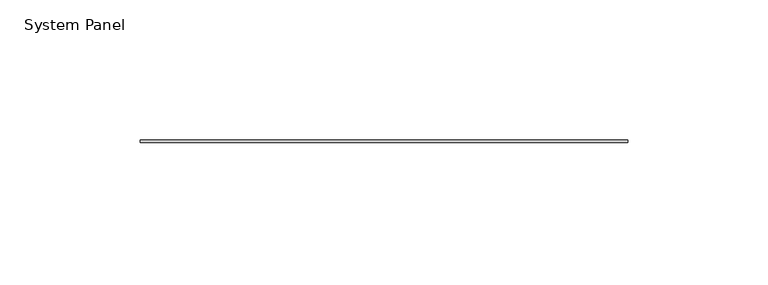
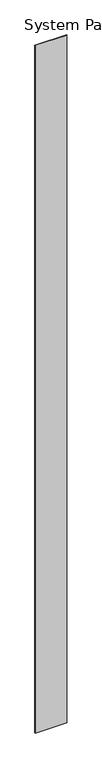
"""IFC4 building model written with IfcOpenShell, lengths in millimetres: plate geometry, System Panel : Stratco_Hiland_Interlock_Panel."""

from ifc_helpers import new_model, si_unit, origin, origin_with_axes, place, context, project, spatial, polyline, outline, extrude, source, transform, mapped, element, save


def system_panel_a3c6d02c(model_context):
    return source(origin(), model_context, "Body", "SweptSolid", [
        extrude(outline(polyline([(86.9514014, 24.0), (-86.9514014, 24.0), (-86.9514014, 25.0), (86.9514014, 25.0), (86.9514014, 24.0)])), origin_with_axes(), (0.0, 0.0, 1.0), 4000.0),
    ])


if __name__ == "__main__":
    model = new_model("IFC4")
    model_context = context("Model", 3, world=origin())
    ifc_project = project(units=[si_unit("LENGTHUNIT", "METRE", prefix="MILLI")], contexts=[model_context])
    site = spatial("IfcSite", under=ifc_project)
    building = spatial("IfcBuilding", under=site)
    placement = place(None, origin())
    system_panel_shape = system_panel_a3c6d02c(model_context)
    element("IfcPlate", 1, ObjectType="System Panel : Stratco_Hiland_Interlock_Panel", at=placement, inside=building, context=model_context, shape_type="MappedRepresentation", body=[
        mapped(system_panel_shape, transform((0.0, 0.0, 0.0), x_axis=(1.0, 0.0, 0.0), y_axis=(0.0, 1.0, 0.0), z_axis=(0.0, 0.0, 1.0))),
    ])
    save(model, "model.ifc")
